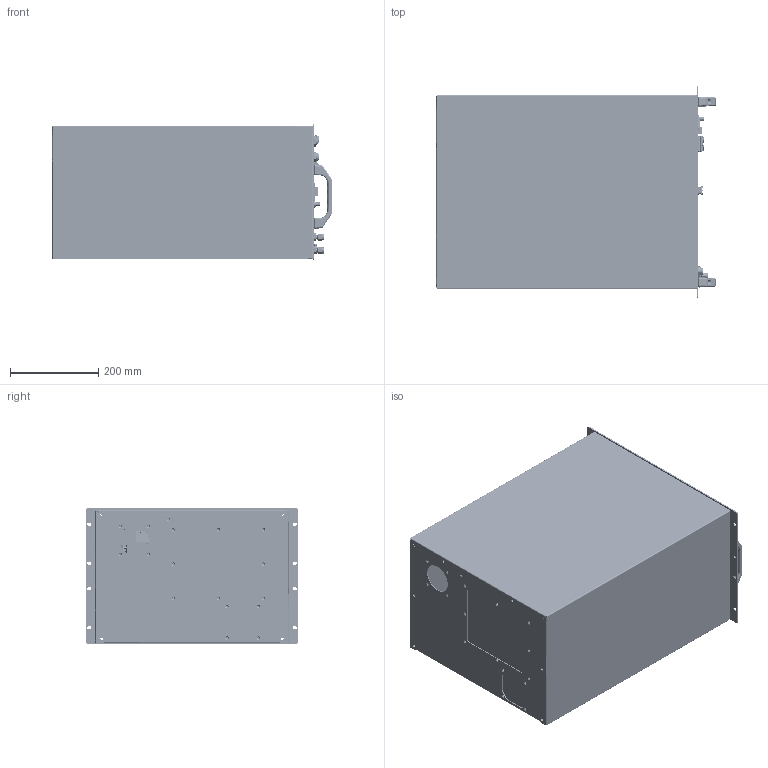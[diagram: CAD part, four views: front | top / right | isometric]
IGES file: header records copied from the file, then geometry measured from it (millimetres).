
Global section: file name: ELE21_Chassis; native system: Autodesk Inventor 2020; preprocessor: unknown; author: L. Giobbi; date: 20200414.095427; units: millimetre
Bounding box: 633.25 x 482 x 307 mm (x, y, z)
Volume: 2452118.2 mm3; surface area: 3035971.9 mm2
Topology: 54 solids, 64 shells, 11274 faces, 30656 edges, 20012 vertices
Faces by surface type: bspline 11274
